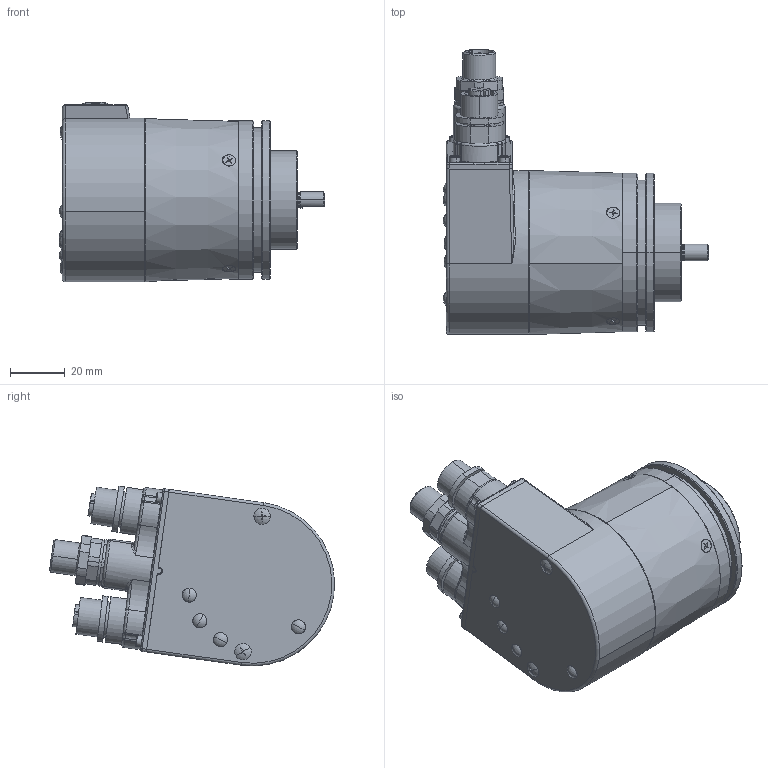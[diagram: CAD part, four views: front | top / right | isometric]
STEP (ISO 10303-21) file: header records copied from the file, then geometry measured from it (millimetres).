
FILE_DESCRIPTION (( 'STEP AP203' ), '1' );
FILE_NAME ('8.5868.11C2.C212.STEP', '2016-12-06T06:28:48', ( 'LauferA' ), ( 'Microsoft' ), 'SwSTEP 2.0', 'SolidWorks 2013', '' );
FILE_SCHEMA (( 'CONFIG_CONTROL_DESIGN' ));
Length unit declared in the file: millimetre
Products named in the file (1): 8.5868.11C2.C212
Bounding box: 97.15 x 104.23 x 65.81 mm (x, y, z)
Volume: 105762.9 mm3; surface area: 76957.2 mm2
Topology: 29 solids, 30 shells, 2712 faces, 7139 edges, 4531 vertices
Faces by surface type: cylinder 1144, plane 855, cone 384, torus 198, bspline 111, sphere 20
Entity records: 91127 total; most frequent: CARTESIAN_POINT 24098, DIRECTION 14464, ORIENTED_EDGE 14154, EDGE_CURVE 7077, AXIS2_PLACEMENT_3D 5856, VERTEX_POINT 4531, CIRCLE 3254, EDGE_LOOP 2878
